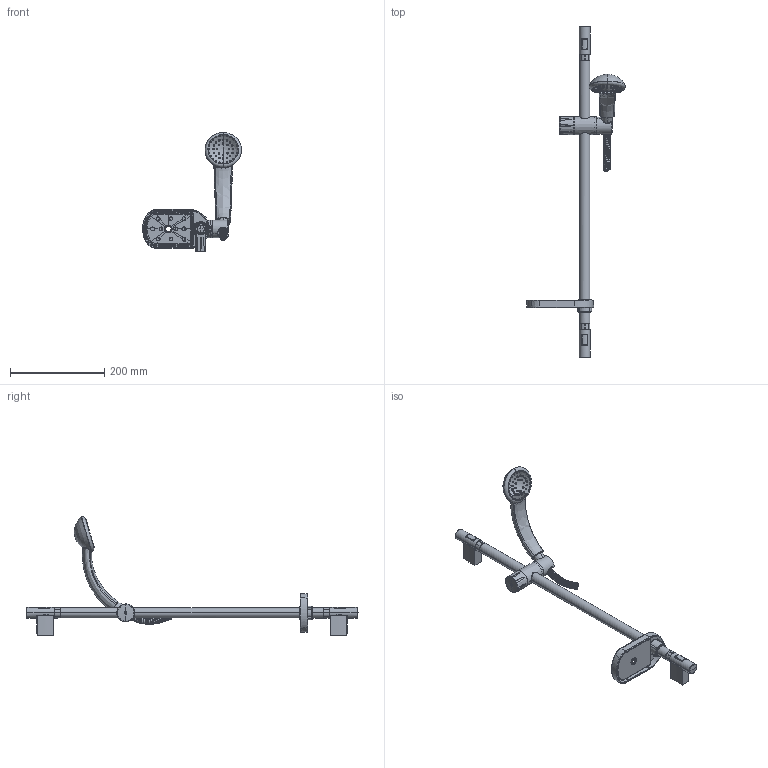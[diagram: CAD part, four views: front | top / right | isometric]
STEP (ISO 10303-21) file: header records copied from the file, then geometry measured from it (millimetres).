
FILE_DESCRIPTION((''),'2;1');
FILE_NAME('ZSAL112CR','2021-05-07T12:55:02',('ut3'),('PAFFONI SpA'),'CREO PARAMETRIC BY PTC INC, 2020044','CREO PARAMETRIC BY PTC INC, 2020044','');
FILE_SCHEMA(('CONFIG_CONTROL_DESIGN','SHAPE_APPEARANCE_LAYERS_GROUPS'));
Length unit declared in the file: millimetre
Products named in the file (1): ZSAL112CR
Bounding box: 210.32 x 706 x 252.94 mm (x, y, z)
Volume: 369575.3 mm3; surface area: 237292.3 mm2
Topology: 6 solids, 6 shells, 1458 faces, 3850 edges, 2438 vertices
Faces by surface type: cylinder 466, plane 426, bspline 279, cone 128, torus 81, sphere 70, revolution 8
Entity records: 103747 total; most frequent: CARTESIAN_POINT 60251, ORIENTED_EDGE 7574, DIRECTION 6010, EDGE_CURVE 3787, AXIS2_PLACEMENT_3D 2468, VERTEX_POINT 2437, EDGE_LOOP 1600, FILL_AREA_STYLE_COLOUR 1476
